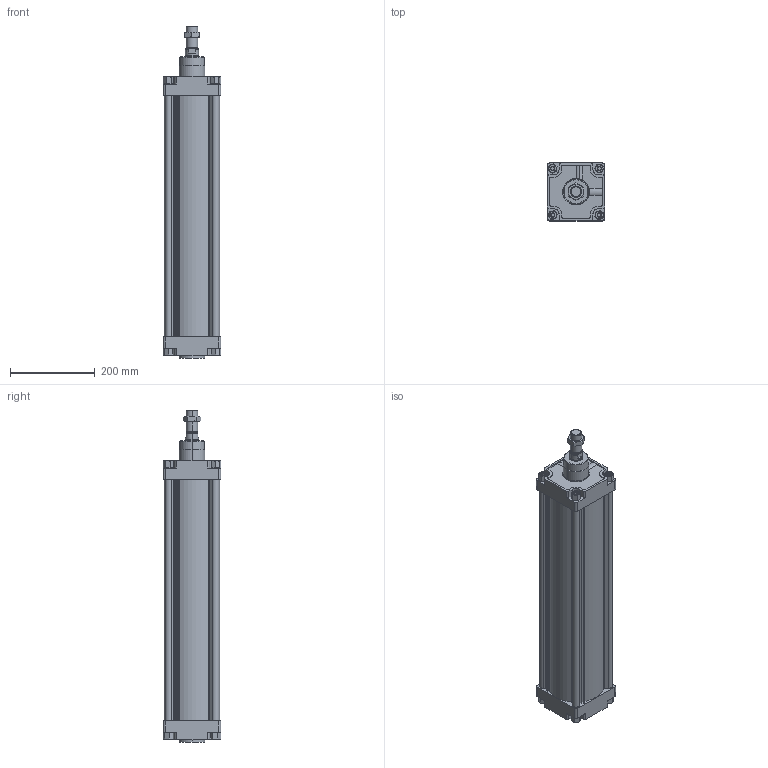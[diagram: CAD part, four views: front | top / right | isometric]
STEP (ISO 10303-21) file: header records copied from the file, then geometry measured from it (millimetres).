
FILE_DESCRIPTION (( 'STEP AP214' ), '1' );
FILE_NAME ('WAC-125-0500 (3D).STEP', '2019-12-05T08:10:41', ( '' ), ( '' ), 'SwSTEP 2.0', 'SolidWorks 2016', '' );
FILE_SCHEMA (( 'AUTOMOTIVE_DESIGN' ));
Length unit declared in the file: millimetre
Products named in the file (4): WAC-125-0500 (3D); Group3^WAC-125-0500 (3D); Group1^WAC-125-0500 (3D); Group2^WAC-125-0500 (3D)
Assembly tree (3 placements, depth 2):
  WAC-125-0500 (3D)
    Group1^WAC-125-0500 (3D)
    Group2^WAC-125-0500 (3D)
    Group3^WAC-125-0500 (3D)
Bounding box: 136 x 136 x 784 mm (x, y, z)
Volume: 4564661.7 mm3; surface area: 823171.1 mm2
Topology: 13 solids, 13 shells, 618 faces, 1635 edges, 1079 vertices
Faces by surface type: plane 344, cylinder 136, bspline 73, cone 65
Entity records: 25472 total; most frequent: CARTESIAN_POINT 9225, ORIENTED_EDGE 3270, DIRECTION 2808, EDGE_CURVE 1635, VERTEX_POINT 1079, VECTOR 1000, LINE 1000, AXIS2_PLACEMENT_3D 904
